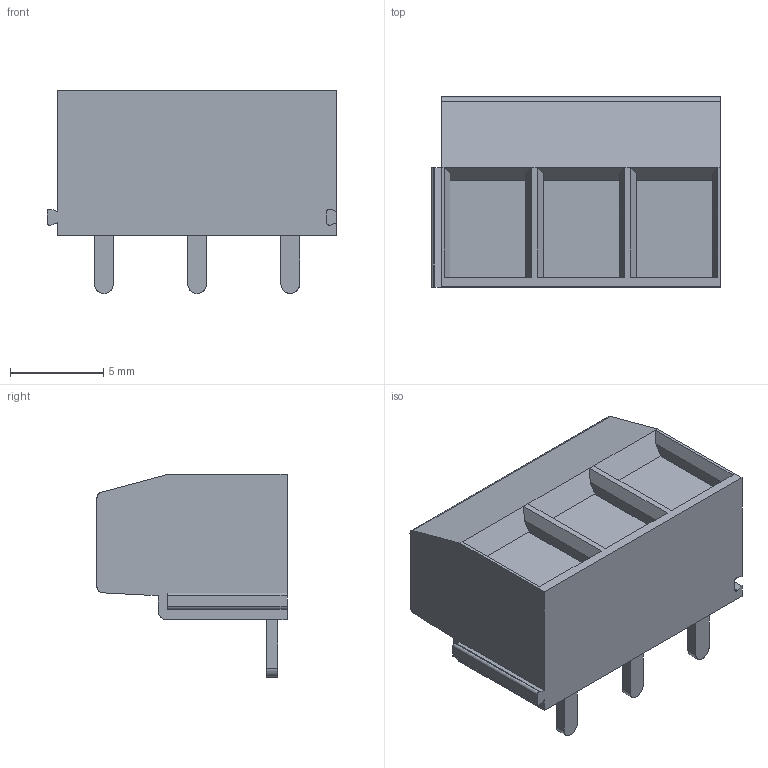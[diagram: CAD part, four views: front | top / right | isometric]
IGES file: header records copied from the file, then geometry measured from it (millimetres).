
Start section: SolidWorks IGES file using analytic representation for surfaces
Global section: file name: D:\OneDrive\00_MOITECH\01_Projects\2020\Metaltex\Modeling\Componentes\BR3\\_Dn\BR3R-03.IGS; native system: SolidWorks 2019; preprocessor: SolidWorks 2019; author: Alan; date: 200220.005543; units: millimetre
Bounding box: 15.55 x 10.2 x 10.9 mm (x, y, z)
Surface area: 929.7 mm2 (no closed solid volume)
Topology: 0 solids, 0 shells, 181 faces, 1419 edges, 1419 vertices
Faces by surface type: bspline 137, revolution 44
